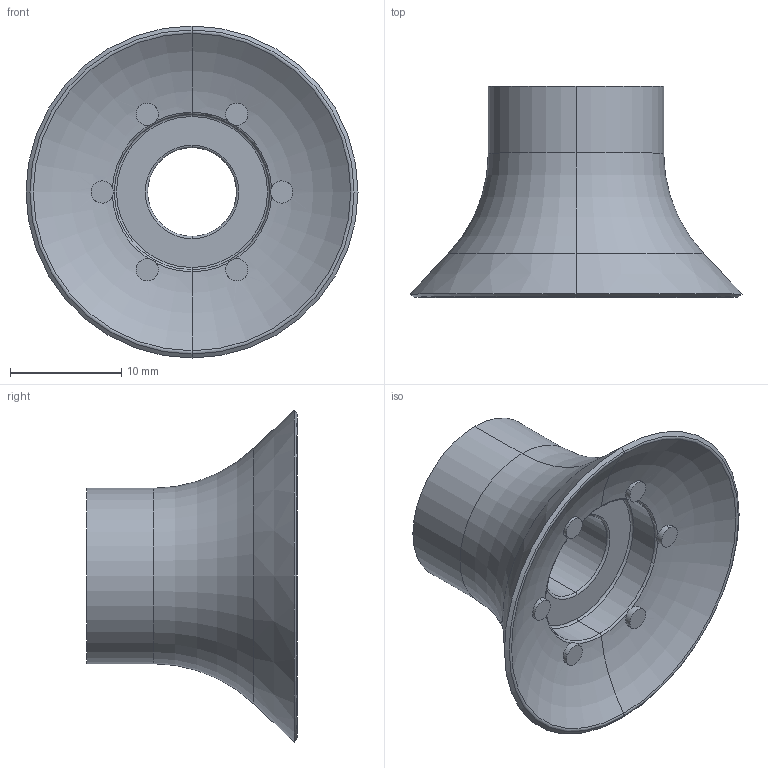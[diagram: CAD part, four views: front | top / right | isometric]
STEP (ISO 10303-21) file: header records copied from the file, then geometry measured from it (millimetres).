
FILE_DESCRIPTION (( 'STEP AP203' ), '1' );
FILE_NAME ('VPC_30--A.STEP', '2017-04-19T07:54:07', ( '' ), ( '' ), 'SwSTEP 2.0', 'SolidWorks 2016', '' );
FILE_SCHEMA (( 'CONFIG_CONTROL_DESIGN' ));
Length unit declared in the file: millimetre
Products named in the file (1): VPC_30--A
Bounding box: 29.9 x 19 x 29.9 mm (x, y, z)
Volume: 3335.2 mm3; surface area: 2614.1 mm2
Topology: 1 solids, 1 shells, 42 faces, 102 edges, 62 vertices
Faces by surface type: cylinder 18, torus 12, plane 8, cone 4
Entity records: 1487 total; most frequent: CARTESIAN_POINT 423, DIRECTION 220, ORIENTED_EDGE 204, EDGE_CURVE 102, AXIS2_PLACEMENT_3D 99, VERTEX_POINT 62, CIRCLE 56, EDGE_LOOP 44
